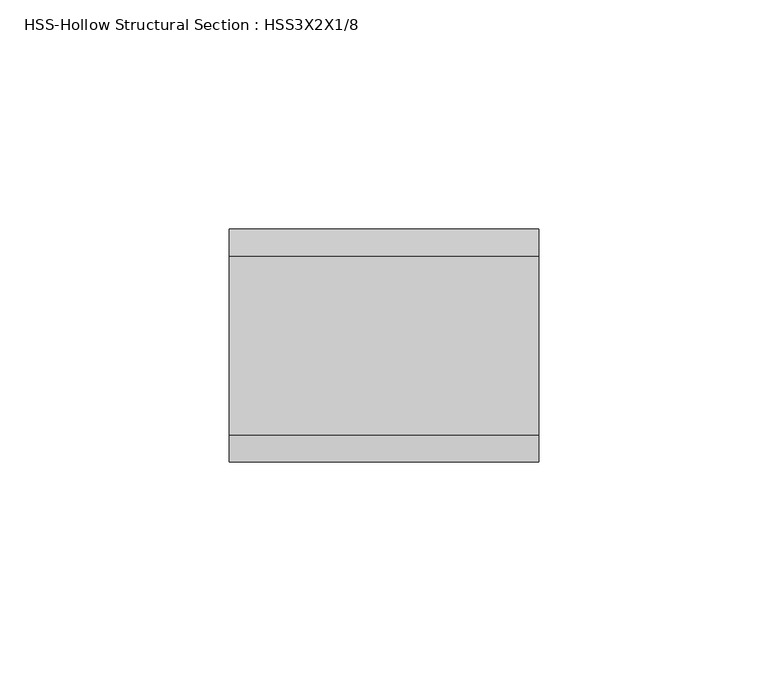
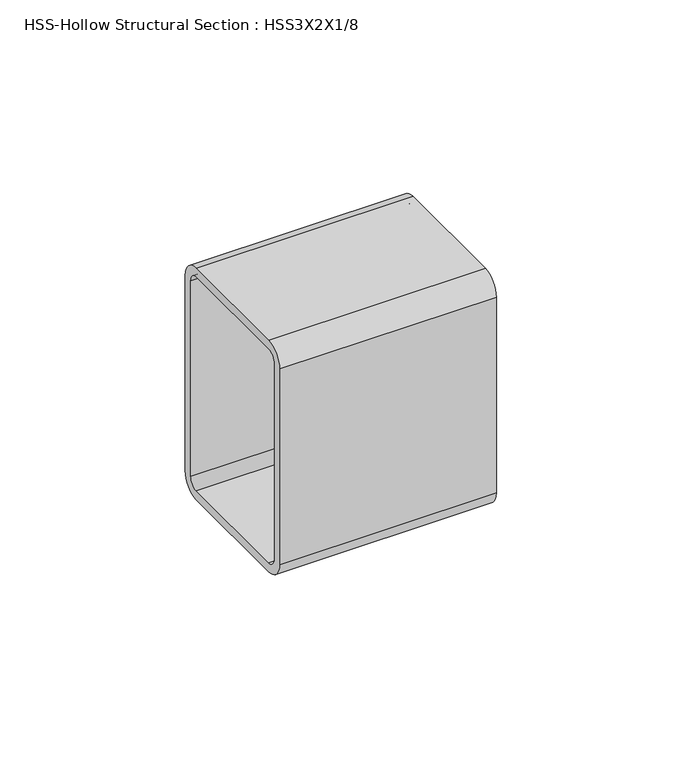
"""IFC4 building model written with IfcOpenShell, lengths in millimetres: beam geometry, HSS-Hollow Structural Section : HSS3X2X1/8."""

from ifc_helpers import new_model, si_unit, point, frame, frame_2d, origin, place, context, project, spatial, polyline, circle_curve, trimmed, segment, composite_curve, outline, extrude, source, transform, mapped, element, save


def hss_hollow_structural_section_hss3x2x1_8_be35bb29(model_context):
    return source(origin(), model_context, "Body", "SweptSolid", [
        extrude(outline(composite_curve([segment(polyline([(25.4, 32.2072), (25.4, -32.2072)]), True, "CONTINUOUS"), segment(trimmed(circle_curve(frame_2d((19.5072, -32.2072)), 5.8928), [point((25.4, -32.2072))], [point((19.5072, -38.1))], False, "CARTESIAN"), True, "CONTINUOUS"), segment(polyline([(19.5072, -38.1), (-19.5072, -38.1)]), True, "CONTINUOUS"), segment(trimmed(circle_curve(frame_2d((-19.5072, -32.2072)), 5.8928), [point((-19.5072, -38.1))], [point((-25.4, -32.2072))], False, "CARTESIAN"), True, "CONTINUOUS"), segment(polyline([(-25.4, -32.2072), (-25.4, 32.2072)]), True, "CONTINUOUS"), segment(trimmed(circle_curve(frame_2d((-19.5072, 32.2072)), 5.8928), [point((-25.4, 32.2072))], [point((-19.5072, 38.1))], False, "CARTESIAN"), True, "CONTINUOUS"), segment(polyline([(-19.5072, 38.1), (19.5072, 38.1)]), True, "CONTINUOUS"), segment(trimmed(circle_curve(frame_2d((19.5072, 32.2072)), 5.8928), [point((19.5072, 38.1))], [point((25.4, 32.2072))], False, "CARTESIAN"), True, "CONTINUOUS")], self_intersect=False), holes=[composite_curve([segment(trimmed(circle_curve(frame_2d((-19.5072, 32.2072)), 2.9464), [point((-19.5072, 35.1536))], [point((-22.4536, 32.2072))], True, "CARTESIAN"), True, "CONTINUOUS"), segment(polyline([(-22.4536, 32.2072), (-22.4536, -32.2072)]), True, "CONTINUOUS"), segment(trimmed(circle_curve(frame_2d((-19.5072, -32.2072)), 2.9464), [point((-22.4536, -32.2072))], [point((-19.5072, -35.1536))], True, "CARTESIAN"), True, "CONTINUOUS"), segment(polyline([(-19.5072, -35.1536), (19.5072, -35.1536)]), True, "CONTINUOUS"), segment(trimmed(circle_curve(frame_2d((19.5072, -32.2072)), 2.9464), [point((19.5072, -35.1536))], [point((22.4536, -32.2072))], True, "CARTESIAN"), True, "CONTINUOUS"), segment(polyline([(22.4536, -32.2072), (22.4536, 32.2072)]), True, "CONTINUOUS"), segment(trimmed(circle_curve(frame_2d((19.5072, 32.2072)), 2.9464), [point((22.4536, 32.2072))], [point((19.5072, 35.1536))], True, "CARTESIAN"), True, "CONTINUOUS"), segment(polyline([(19.5072, 35.1536), (-19.5072, 35.1536)]), True, "CONTINUOUS")], self_intersect=False)]), frame((21.3839855, 0.0, 0.0), z_axis=(1.0, 0.0, 0.0), x_axis=(0.0, 1.0, 0.0)), (0.0, 0.0, 1.0), 67.5160145),
    ])


if __name__ == "__main__":
    model = new_model("IFC4")
    model_context = context("Model", 3, world=origin())
    ifc_project = project(units=[si_unit("LENGTHUNIT", "METRE", prefix="MILLI")], contexts=[model_context])
    site = spatial("IfcSite", under=ifc_project)
    building = spatial("IfcBuilding", under=site)
    placement = place(None, origin())
    hss_hollow_structural_section_hss3x2x1_8_shape = hss_hollow_structural_section_hss3x2x1_8_be35bb29(model_context)
    element("IfcBeam", 1, ObjectType="HSS-Hollow Structural Section : HSS3X2X1/8", at=placement, inside=building, context=model_context, shape_type="MappedRepresentation", body=[
        mapped(hss_hollow_structural_section_hss3x2x1_8_shape, transform((0.0, 0.0, 0.0), x_axis=(1.0, 0.0, 0.0), y_axis=(0.0, 1.0, 0.0), z_axis=(0.0, 0.0, 1.0))),
    ])
    save(model, "model.ifc")
